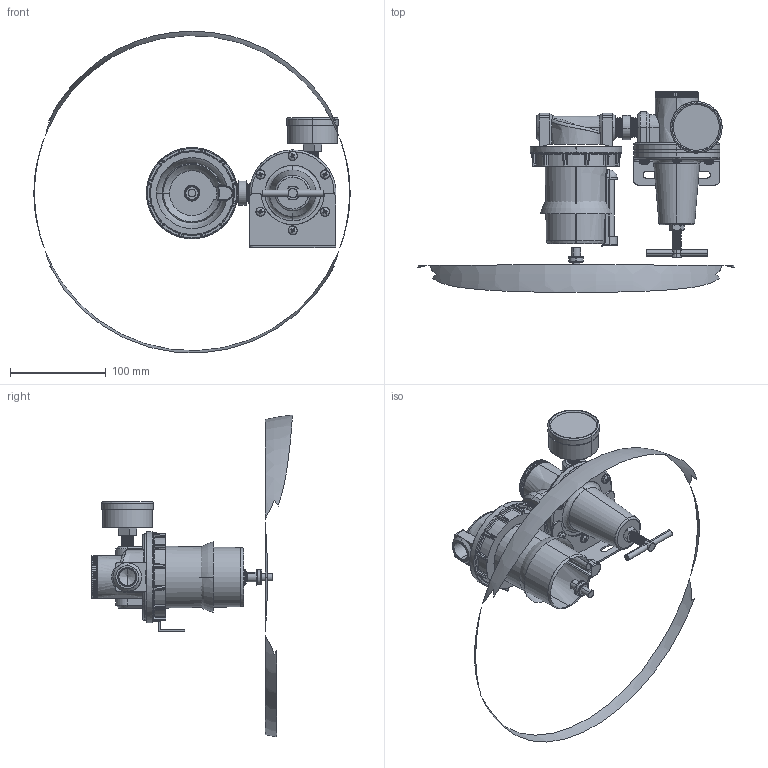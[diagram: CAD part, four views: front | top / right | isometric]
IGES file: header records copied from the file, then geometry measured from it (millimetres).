
Start section: SolidWorks IGES file using analytic representation for surfaces
Global section: file name: D:\Custom\3D繪製\FRL\FR系列\U628#W-04#YB#.IGS; native system: SolidWorks 2014; preprocessor: SolidWorks 2014; author: Chieh_Lu; date: 160115.012701; units: millimetre
Bounding box: 331.28 x 210.54 x 336.8 mm (x, y, z)
Surface area: 175496.1 mm2 (no closed solid volume)
Topology: 0 solids, 0 shells, 1184 faces, 13953 edges, 13927 vertices
Faces by surface type: revolution 594, bspline 590
